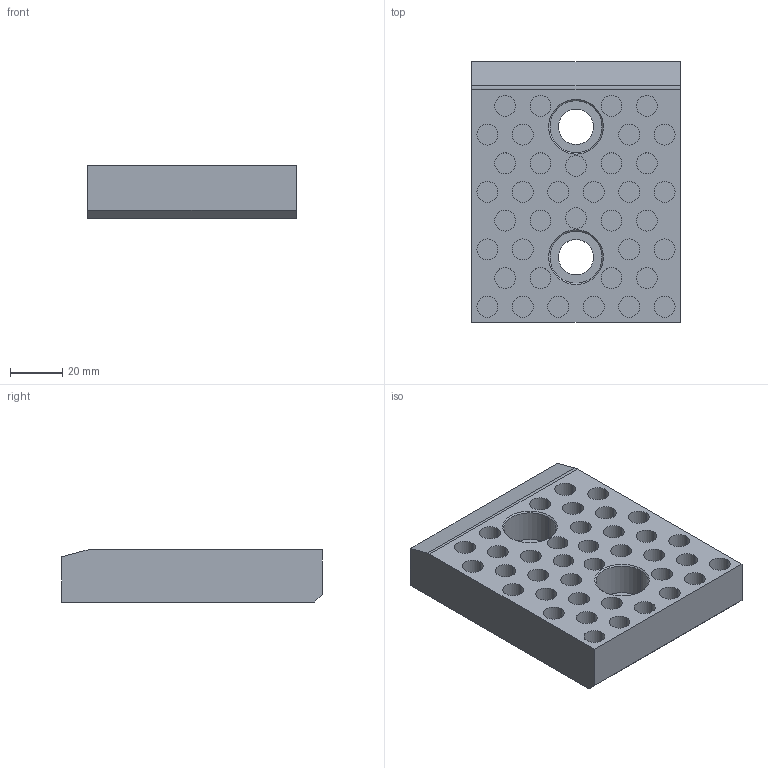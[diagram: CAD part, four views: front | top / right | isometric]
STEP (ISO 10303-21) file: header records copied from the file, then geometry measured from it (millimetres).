
FILE_DESCRIPTION (( 'STEP AP214' ), '1' );
FILE_NAME ('SW224-01-80x100.STEP', '2020-10-14T13:39:54', ( 'August' ), ( '' ), 'SwSTEP 2.0', 'SolidWorks 2018', '' );
FILE_SCHEMA (( 'AUTOMOTIVE_DESIGN' ));
Length unit declared in the file: millimetre
Products named in the file (1): SW224-01-80x100
Bounding box: 80 x 100 x 20 mm (x, y, z)
Volume: 135390 mm3; surface area: 30949.8 mm2
Topology: 1 solids, 1 shells, 137 faces, 281 edges, 186 vertices
Faces by surface type: cylinder 85, plane 48, cone 4
Entity records: 3992 total; most frequent: DIRECTION 731, CARTESIAN_POINT 605, ORIENTED_EDGE 562, AXIS2_PLACEMENT_3D 312, EDGE_CURVE 281, VERTEX_POINT 186, EDGE_LOOP 181, CIRCLE 174
